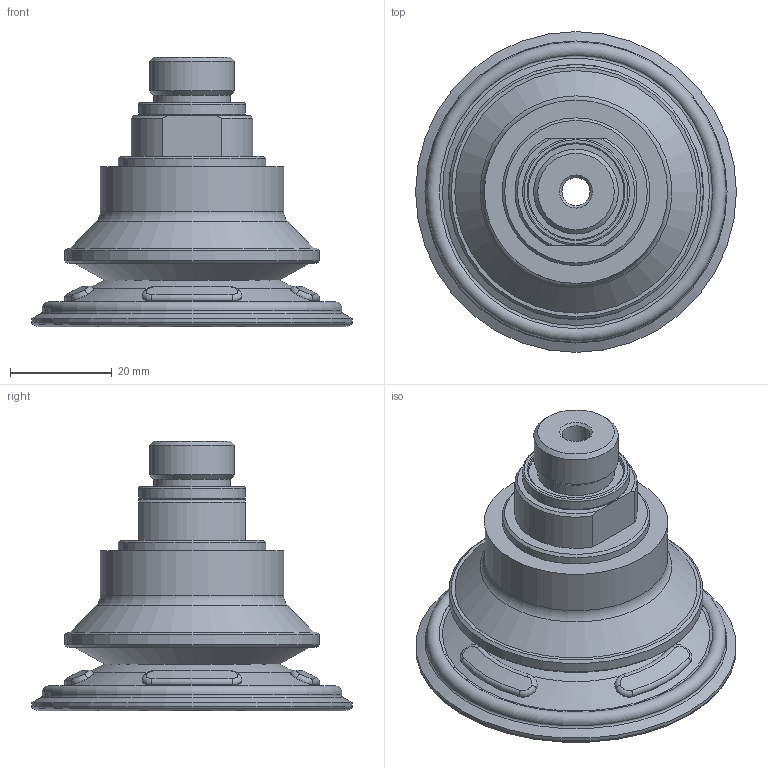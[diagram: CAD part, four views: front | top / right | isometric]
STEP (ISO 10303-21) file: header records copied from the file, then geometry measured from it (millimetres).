
FILE_DESCRIPTION( ( 'Unknown' ), '1' );
FILE_NAME( 'C:/Documents and Settings/owner/官帕 拳搁/VBF60-18F-38M.stp', 'Unknown', ( 'Unknown' ), ( 'Unknown' ), 'XStep 1.0', 'Unknown', ' ' );
FILE_SCHEMA( ( 'automotive_design' ) );
Length unit declared in the file: millimetre
Products named in the file (1): VBF60-18F
Bounding box: 63 x 63 x 53 mm (x, y, z)
Volume: 27890.1 mm3; surface area: 16982.4 mm2
Topology: 1 solids, 2 shells, 125 faces, 263 edges, 153 vertices
Faces by surface type: cone 40, bspline 32, torus 19, plane 17, cylinder 17
Full cylindrical faces by diameter (mm): 5.5 x1, 7 x1, 8.5 x2, 12 x1, 15 x1, 16.662 x1, 18.8 x1, 21 x1, 28 x1, 29 x1, 36 x1, 49.995 x1, 60 x1, 63 x1
Entity records: 8230 total; most frequent: CARTESIAN_POINT 4962, DIRECTION 442, ORIENTED_EDGE 414, AXIS2_PLACEMENT_3D 217, EDGE_CURVE 207, EDGE_LOOP 192, FACE_OUTER_BOUND 151, VERTEX_POINT 149
